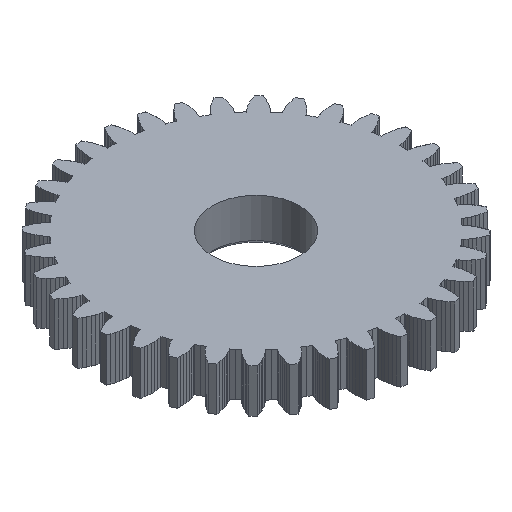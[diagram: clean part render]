
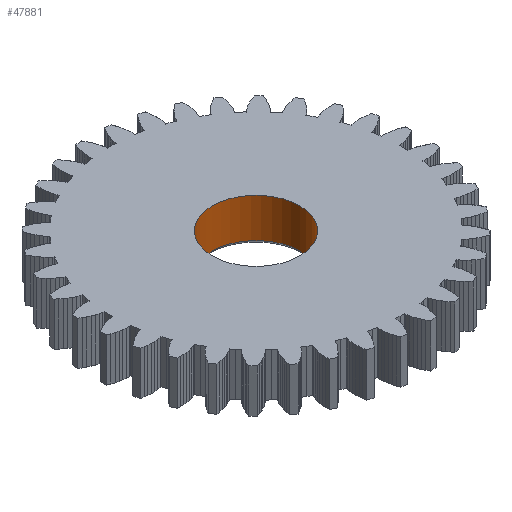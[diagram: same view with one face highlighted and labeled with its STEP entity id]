
A CAD part, isometric view. The second image highlights one B-rep face of the part: STEP entity #47881.
In plain terms, the highlighted cylindrical face has radius 4 mm (diameter 8 mm), a full revolution.
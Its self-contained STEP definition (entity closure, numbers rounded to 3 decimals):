
#72 = PLANE('',#73);
#73 = AXIS2_PLACEMENT_3D('',#74,#75,#76);
#74 = CARTESIAN_POINT('',(0.,0.,
    -41.9));
#75 = DIRECTION('',(0.,0.,1.));
#76 = DIRECTION('',(1.,0.,-0.));
#17355 = CONICAL_SURFACE('',#17356,4.6,0.785);
#17356 = AXIS2_PLACEMENT_3D('',#17357,#17358,#17359);
#17357 = CARTESIAN_POINT('',(0.,0.,-46.1));
#17358 = DIRECTION('',(-0.,-0.,-1.));
#17359 = DIRECTION('',(1.,0.,-0.));
#31380 = EDGE_CURVE('',#31381,#31381,#31383,.T.);
#31381 = VERTEX_POINT('',#31382);
#31382 = CARTESIAN_POINT('',(4.,0.,-41.9));
#31383 = SURFACE_CURVE('',#31384,(#31389,#31396),.PCURVE_S1.);
#31384 = CIRCLE('',#31385,4.);
#31385 = AXIS2_PLACEMENT_3D('',#31386,#31387,#31388);
#31386 = CARTESIAN_POINT('',(0.,0.,-41.9));
#31387 = DIRECTION('',(0.,0.,1.));
#31388 = DIRECTION('',(1.,0.,-0.));
#31389 = PCURVE('',#72,#31390);
#31390 = DEFINITIONAL_REPRESENTATION('',(#31391),#31395);
#31391 = CIRCLE('',#31392,4.);
#31392 = AXIS2_PLACEMENT_2D('',#31393,#31394);
#31393 = CARTESIAN_POINT('',(0.,0.));
#31394 = DIRECTION('',(1.,0.));
#31395 = ( GEOMETRIC_REPRESENTATION_CONTEXT(2) 
PARAMETRIC_REPRESENTATION_CONTEXT() REPRESENTATION_CONTEXT('2D SPACE',''
  ) );
#31396 = PCURVE('',#31397,#31402);
#31397 = CYLINDRICAL_SURFACE('',#31398,4.);
#31398 = AXIS2_PLACEMENT_3D('',#31399,#31400,#31401);
#31399 = CARTESIAN_POINT('',(0.,0.,-46.4));
#31400 = DIRECTION('',(0.,0.,1.));
#31401 = DIRECTION('',(1.,0.,-0.));
#31402 = DEFINITIONAL_REPRESENTATION('',(#31403),#31407);
#31403 = LINE('',#31404,#31405);
#31404 = CARTESIAN_POINT('',(0.,4.5));
#31405 = VECTOR('',#31406,1.);
#31406 = DIRECTION('',(1.,0.));
#31407 = ( GEOMETRIC_REPRESENTATION_CONTEXT(2) 
PARAMETRIC_REPRESENTATION_CONTEXT() REPRESENTATION_CONTEXT('2D SPACE',''
  ) );
#47837 = VERTEX_POINT('',#47838);
#47838 = CARTESIAN_POINT('',(4.,0.,-45.5));
#47859 = EDGE_CURVE('',#47837,#47837,#47860,.T.);
#47860 = SURFACE_CURVE('',#47861,(#47866,#47873),.PCURVE_S1.);
#47861 = CIRCLE('',#47862,4.);
#47862 = AXIS2_PLACEMENT_3D('',#47863,#47864,#47865);
#47863 = CARTESIAN_POINT('',(0.,0.,-45.5));
#47864 = DIRECTION('',(0.,0.,1.));
#47865 = DIRECTION('',(1.,0.,-0.));
#47866 = PCURVE('',#17355,#47867);
#47867 = DEFINITIONAL_REPRESENTATION('',(#47868),#47872);
#47868 = LINE('',#47869,#47870);
#47869 = CARTESIAN_POINT('',(-0.,-0.6));
#47870 = VECTOR('',#47871,1.);
#47871 = DIRECTION('',(-1.,-0.));
#47872 = ( GEOMETRIC_REPRESENTATION_CONTEXT(2) 
PARAMETRIC_REPRESENTATION_CONTEXT() REPRESENTATION_CONTEXT('2D SPACE',''
  ) );
#47873 = PCURVE('',#31397,#47874);
#47874 = DEFINITIONAL_REPRESENTATION('',(#47875),#47879);
#47875 = LINE('',#47876,#47877);
#47876 = CARTESIAN_POINT('',(0.,0.9));
#47877 = VECTOR('',#47878,1.);
#47878 = DIRECTION('',(1.,0.));
#47879 = ( GEOMETRIC_REPRESENTATION_CONTEXT(2) 
PARAMETRIC_REPRESENTATION_CONTEXT() REPRESENTATION_CONTEXT('2D SPACE',''
  ) );
#47881 = ADVANCED_FACE('',(#47882),#31397,.F.);
#47882 = FACE_BOUND('',#47883,.F.);
#47883 = EDGE_LOOP('',(#47884,#47905,#47906,#47907));
#47884 = ORIENTED_EDGE('',*,*,#47885,.T.);
#47885 = EDGE_CURVE('',#47837,#31381,#47886,.T.);
#47886 = SEAM_CURVE('',#47887,(#47891,#47898),.PCURVE_S1.);
#47887 = LINE('',#47888,#47889);
#47888 = CARTESIAN_POINT('',(4.,0.,-46.4));
#47889 = VECTOR('',#47890,1.);
#47890 = DIRECTION('',(0.,0.,1.));
#47891 = PCURVE('',#31397,#47892);
#47892 = DEFINITIONAL_REPRESENTATION('',(#47893),#47897);
#47893 = LINE('',#47894,#47895);
#47894 = CARTESIAN_POINT('',(6.283,-0.));
#47895 = VECTOR('',#47896,1.);
#47896 = DIRECTION('',(0.,1.));
#47897 = ( GEOMETRIC_REPRESENTATION_CONTEXT(2) 
PARAMETRIC_REPRESENTATION_CONTEXT() REPRESENTATION_CONTEXT('2D SPACE',''
  ) );
#47898 = PCURVE('',#31397,#47899);
#47899 = DEFINITIONAL_REPRESENTATION('',(#47900),#47904);
#47900 = LINE('',#47901,#47902);
#47901 = CARTESIAN_POINT('',(0.,-0.));
#47902 = VECTOR('',#47903,1.);
#47903 = DIRECTION('',(0.,1.));
#47904 = ( GEOMETRIC_REPRESENTATION_CONTEXT(2) 
PARAMETRIC_REPRESENTATION_CONTEXT() REPRESENTATION_CONTEXT('2D SPACE',''
  ) );
#47905 = ORIENTED_EDGE('',*,*,#31380,.F.);
#47906 = ORIENTED_EDGE('',*,*,#47885,.F.);
#47907 = ORIENTED_EDGE('',*,*,#47859,.T.);
